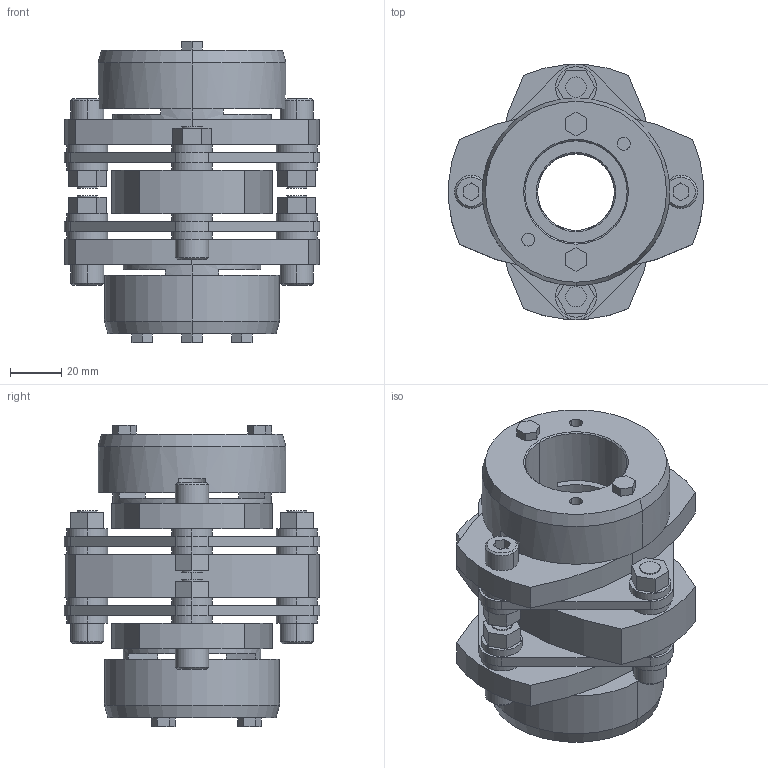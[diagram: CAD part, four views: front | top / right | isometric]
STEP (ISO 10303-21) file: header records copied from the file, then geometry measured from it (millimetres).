
FILE_DESCRIPTION((''),'2;1');
FILE_NAME('LCD-100T7-30×40.stp','2011-09-09T08:57:13',(''),(''),'AutoCAD STEP 2000i','AutoCAD 2000i',', , ');
FILE_SCHEMA(('CONFIG_CONTROL_DESIGN'));
Length unit declared in the file: millimetre
Products named in the file (10): LCD-100T7-30×38; 忣兜1; LC100T7-T038; LC100T7-T035; LC100T7-T030-1; LC100T7-T030; LC100T7-T025; LC100T7-T022-1; LC100T7-T022; LCD100-ITA
Assembly tree (9 placements, depth 2):
  LCD-100T7-30×38
    忣兜1
    LC100T7-T038
    LC100T7-T035
    LC100T7-T030-1
    LC100T7-T030
    LC100T7-T025
    LC100T7-T022-1
    LC100T7-T022
    LCD100-ITA
Bounding box: 100 x 99.93 x 118 mm (x, y, z)
Volume: 355859.9 mm3; surface area: 91533.8 mm2
Topology: 1 solids, 1 shells, 317 faces, 774 edges, 508 vertices
Faces by surface type: plane 171, cylinder 122, cone 24
Entity records: 9637 total; most frequent: DIRECTION 1716, CARTESIAN_POINT 1609, ORIENTED_EDGE 1548, EDGE_CURVE 774, AXIS2_PLACEMENT_3D 615, VERTEX_POINT 508, VECTOR 486, LINE 486
